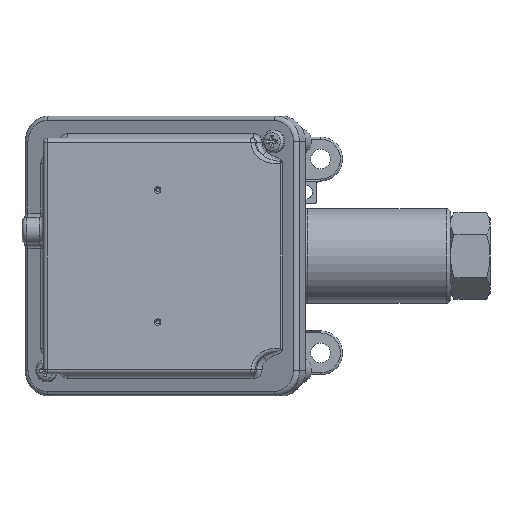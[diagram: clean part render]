
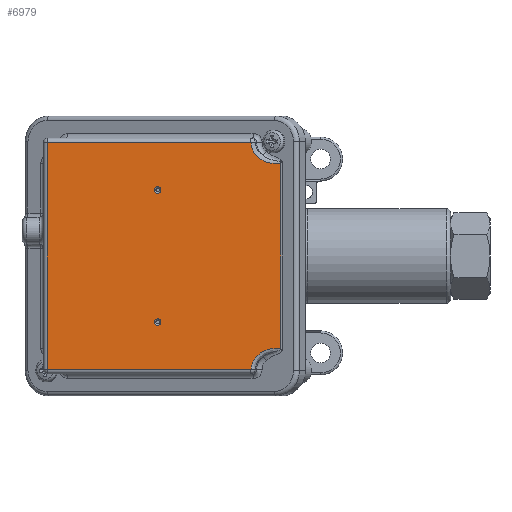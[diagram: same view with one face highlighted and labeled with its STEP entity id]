
A CAD part, left-side view. The second image highlights one B-rep face of the part: STEP entity #6979.
In plain terms, the highlighted planar face has unit normal (-1, 0.005, 0).
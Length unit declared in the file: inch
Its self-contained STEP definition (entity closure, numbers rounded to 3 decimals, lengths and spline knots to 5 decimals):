
#388 = LINE ( 'NONE', #6517, #1320 ) ;
#392 = DIRECTION ( 'NONE',  ( -1., 0.005, 0. ) ) ;
#455 = CARTESIAN_POINT ( 'NONE',  ( -2.32159, 0.41746, -1.27099 ) ) ;
#527 = CARTESIAN_POINT ( 'NONE',  ( -2.32063, 0.60182, -1.39798 ) ) ;
#553 = CARTESIAN_POINT ( 'NONE',  ( -2.32276, 0.19397, -1.32146 ) ) ;
#708 = VECTOR ( 'NONE', #4160, 39.37008 ) ;
#1105 = VERTEX_POINT ( 'NONE', #5603 ) ;
#1142 = LINE ( 'NONE', #7334, #7346 ) ;
#1297 = VERTEX_POINT ( 'NONE', #5802 ) ;
#1320 = VECTOR ( 'NONE', #3404, 39.37008 ) ;
#1450 = FACE_BOUND ( 'NONE', #7772, .T. ) ;
#1452 = VERTEX_POINT ( 'NONE', #5994 ) ;
#1493 = CARTESIAN_POINT ( 'NONE',  ( -2.32282, 0.18143, 1.6725 ) ) ;
#1755 = CARTESIAN_POINT ( 'NONE',  ( -2.32063, 0.60182, 1.39798 ) ) ;
#1770 =( BOUNDED_CURVE ( )  B_SPLINE_CURVE ( 3, ( #7874, #527, #455, #6510 ),
 .UNSPECIFIED., .F., .T. ) 
 B_SPLINE_CURVE_WITH_KNOTS ( ( 4, 4 ),
 ( 3.18961, 4.95247 ),
 .UNSPECIFIED. ) 
 CURVE ( )  GEOMETRIC_REPRESENTATION_ITEM ( )  RATIONAL_B_SPLINE_CURVE ( ( 1., 0.757, 0.757, 1. ) ) 
 REPRESENTATION_ITEM ( '' )  );
#1897 = EDGE_LOOP ( 'NONE', ( #2276 ) ) ;
#2008 = EDGE_CURVE ( 'NONE', #6641, #6641, #3098, .T. ) ;
#2035 = ORIENTED_EDGE ( 'NONE', *, *, #4470, .T. ) ;
#2099 = EDGE_CURVE ( 'NONE', #3388, #1452, #388, .T. ) ;
#2126 = CARTESIAN_POINT ( 'NONE',  ( -2.32282, 0.18143, 1.61 ) ) ;
#2276 = ORIENTED_EDGE ( 'NONE', *, *, #2008, .F. ) ;
#2316 = CARTESIAN_POINT ( 'NONE',  ( -2.31365, 1.9384, -0.938 ) ) ;
#2547 = EDGE_CURVE ( 'NONE', #1452, #2691, #1770, .T. ) ;
#2610 = VERTEX_POINT ( 'NONE', #6365 ) ;
#2691 = VERTEX_POINT ( 'NONE', #553 ) ;
#2750 = CIRCLE ( 'NONE', #5550, 0.0465 ) ;
#2862 = VECTOR ( 'NONE', #3288, 39.37008 ) ;
#3098 = CIRCLE ( 'NONE', #4508, 0.0465 ) ;
#3281 = ORIENTED_EDGE ( 'NONE', *, *, #4302, .T. ) ;
#3288 = DIRECTION ( 'NONE',  ( 0.005, 1., 0. ) ) ;
#3388 = VERTEX_POINT ( 'NONE', #5749 ) ;
#3394 = EDGE_LOOP ( 'NONE', ( #2035, #4218, #4975, #6193, #4270, #3281 ) ) ;
#3404 = DIRECTION ( 'NONE',  ( -0.005, -1., 0. ) ) ;
#3556 = CARTESIAN_POINT ( 'NONE',  ( -2.32057, 0.61286, 1.61 ) ) ;
#3730 = CARTESIAN_POINT ( 'NONE',  ( -2.31365, 1.9384, 0.937 ) ) ;
#3840 = DIRECTION ( 'NONE',  ( 0.005, 1., 0. ) ) ;
#3892 = AXIS2_PLACEMENT_3D ( 'NONE', #1493, #5116, #3840 ) ;
#4160 = DIRECTION ( 'NONE',  ( 0., 0., -1. ) ) ;
#4218 = ORIENTED_EDGE ( 'NONE', *, *, #2099, .T. ) ;
#4234 = CARTESIAN_POINT ( 'NONE',  ( -2.32159, 0.41746, 1.27099 ) ) ;
#4270 = ORIENTED_EDGE ( 'NONE', *, *, #7226, .T. ) ;
#4302 = EDGE_CURVE ( 'NONE', #1297, #5825, #5160, .T. ) ;
#4404 = FACE_OUTER_BOUND ( 'NONE', #3394, .T. ) ;
#4470 = EDGE_CURVE ( 'NONE', #5825, #3388, #4741, .T. ) ;
#4508 = AXIS2_PLACEMENT_3D ( 'NONE', #3730, #6176, #5088 ) ;
#4687 = DIRECTION ( 'NONE',  ( -0.005, -1., 0. ) ) ;
#4741 = LINE ( 'NONE', #6627, #708 ) ;
#4819 = EDGE_CURVE ( 'NONE', #2691, #1105, #1142, .T. ) ;
#4975 = ORIENTED_EDGE ( 'NONE', *, *, #2547, .T. ) ;
#5088 = DIRECTION ( 'NONE',  ( -0.005, -1., 0. ) ) ;
#5116 = DIRECTION ( 'NONE',  ( 1., -0.005, 0. ) ) ;
#5160 = LINE ( 'NONE', #2126, #2862 ) ;
#5447 = CARTESIAN_POINT ( 'NONE',  ( -2.31389, 1.8919, 0.937 ) ) ;
#5506 =( BOUNDED_CURVE ( )  B_SPLINE_CURVE ( 3, ( #7879, #4234, #1755, #3556 ),
 .UNSPECIFIED., .F., .T. ) 
 B_SPLINE_CURVE_WITH_KNOTS ( ( 4, 4 ),
 ( 1.33072, 3.09357 ),
 .UNSPECIFIED. ) 
 CURVE ( )  GEOMETRIC_REPRESENTATION_ITEM ( )  RATIONAL_B_SPLINE_CURVE ( ( 1., 0.757, 0.757, 1. ) ) 
 REPRESENTATION_ITEM ( '' )  );
#5550 = AXIS2_PLACEMENT_3D ( 'NONE', #2316, #392, #4687 ) ;
#5603 = CARTESIAN_POINT ( 'NONE',  ( -2.32276, 0.19397, 1.32146 ) ) ;
#5749 = CARTESIAN_POINT ( 'NONE',  ( -2.3055, 3.50088, -1.61 ) ) ;
#5802 = CARTESIAN_POINT ( 'NONE',  ( -2.32057, 0.61286, 1.61 ) ) ;
#5825 = VERTEX_POINT ( 'NONE', #5990 ) ;
#5990 = CARTESIAN_POINT ( 'NONE',  ( -2.3055, 3.50088, 1.61 ) ) ;
#5994 = CARTESIAN_POINT ( 'NONE',  ( -2.32057, 0.61286, -1.61 ) ) ;
#6176 = DIRECTION ( 'NONE',  ( -1., 0.005, 0. ) ) ;
#6193 = ORIENTED_EDGE ( 'NONE', *, *, #4819, .T. ) ;
#6326 = ORIENTED_EDGE ( 'NONE', *, *, #6703, .F. ) ;
#6365 = CARTESIAN_POINT ( 'NONE',  ( -2.31389, 1.8919, -0.938 ) ) ;
#6510 = CARTESIAN_POINT ( 'NONE',  ( -2.32276, 0.19397, -1.32146 ) ) ;
#6517 = CARTESIAN_POINT ( 'NONE',  ( -2.32081, 0.56672, -1.61 ) ) ;
#6627 = CARTESIAN_POINT ( 'NONE',  ( -2.3055, 3.50088, 1.6725 ) ) ;
#6641 = VERTEX_POINT ( 'NONE', #5447 ) ;
#6703 = EDGE_CURVE ( 'NONE', #2610, #2610, #2750, .T. ) ;
#6851 = PLANE ( 'NONE',  #3892 ) ;
#6979 = ADVANCED_FACE ( 'NONE', ( #7525, #1450, #4404 ), #6851, .F. ) ;
#7226 = EDGE_CURVE ( 'NONE', #1105, #1297, #5506, .T. ) ;
#7334 = CARTESIAN_POINT ( 'NONE',  ( -2.32276, 0.19397, 1.6725 ) ) ;
#7346 = VECTOR ( 'NONE', #7375, 39.37008 ) ;
#7375 = DIRECTION ( 'NONE',  ( 0., 0., 1. ) ) ;
#7525 = FACE_BOUND ( 'NONE', #1897, .T. ) ;
#7772 = EDGE_LOOP ( 'NONE', ( #6326 ) ) ;
#7874 = CARTESIAN_POINT ( 'NONE',  ( -2.32057, 0.61286, -1.61 ) ) ;
#7879 = CARTESIAN_POINT ( 'NONE',  ( -2.32276, 0.19397, 1.32146 ) ) ;
